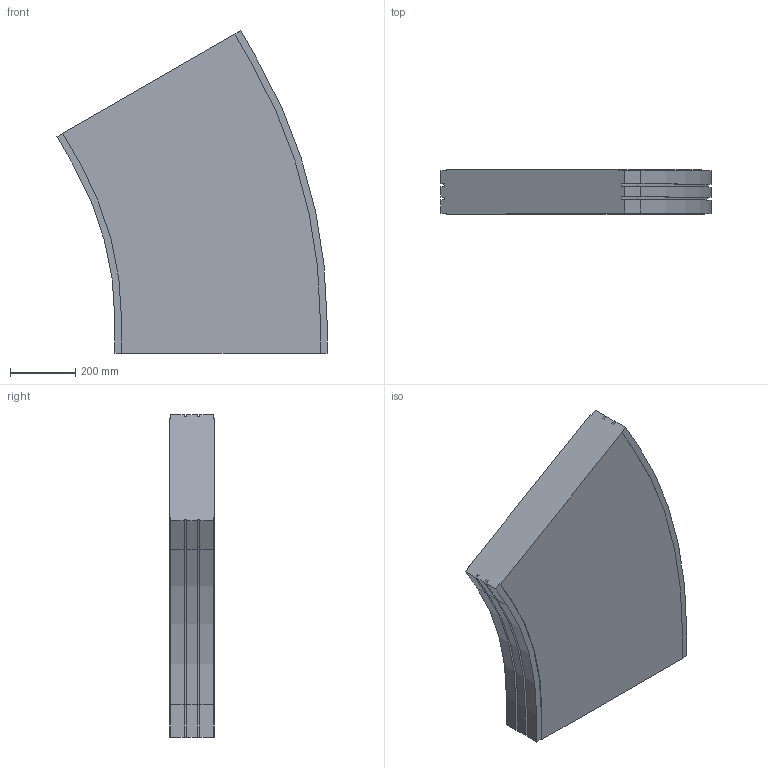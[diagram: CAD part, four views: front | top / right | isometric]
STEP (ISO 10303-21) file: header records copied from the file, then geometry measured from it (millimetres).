
FILE_DESCRIPTION (( 'STEP AP214' ), '1' );
FILE_NAME ('02.150H30.650.N FS-MTC-150 Bocht horizontaal 30°.STEP', '2013-03-29T11:20:02', ( 'Gebruiker' ), ( '' ), 'SwSTEP 2.0', 'SolidWorks 2012', '' );
FILE_SCHEMA (( 'AUTOMOTIVE_DESIGN' ));
Length unit declared in the file: millimetre
Products named in the file (1): 02.150H30.650.N FS-MTC-150 Bocht horizontaal 30°
Bounding box: 828.41 x 136 x 989.23 mm (x, y, z)
Volume: 76482008.3 mm3; surface area: 1621191.9 mm2
Topology: 1 solids, 1 shells, 58 faces, 168 edges, 112 vertices
Faces by surface type: plane 44, cylinder 14
Entity records: 1934 total; most frequent: CARTESIAN_POINT 339, ORIENTED_EDGE 336, DIRECTION 314, EDGE_CURVE 168, VECTOR 140, LINE 140, VERTEX_POINT 112, AXIS2_PLACEMENT_3D 87
